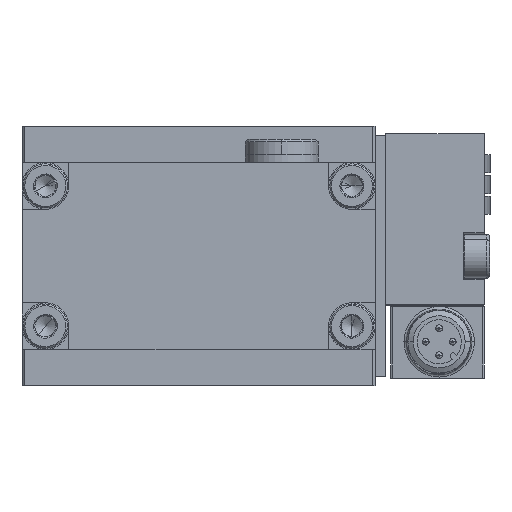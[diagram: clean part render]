
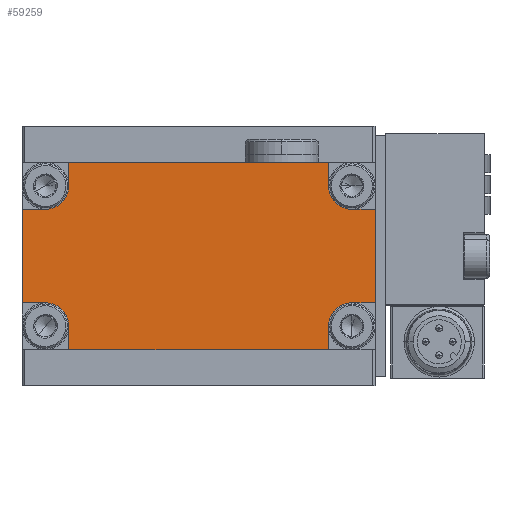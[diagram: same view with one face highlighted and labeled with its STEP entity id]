
A CAD part, front view. The second image highlights one B-rep face of the part: STEP entity #59259.
In plain terms, the highlighted planar face has unit normal (0, -1, 0).
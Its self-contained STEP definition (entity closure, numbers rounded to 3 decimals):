
#1172 = ORIENTED_EDGE ( 'NONE', *, *, #4289, .F. ) ;
#1534 = CARTESIAN_POINT ( 'NONE',  ( 34., -174.55, -9. ) ) ;
#2789 = LINE ( 'NONE', #60141, #53951 ) ;
#2869 = DIRECTION ( 'NONE',  ( -1., 0., 0. ) ) ;
#3066 = CARTESIAN_POINT ( 'NONE',  ( -34., -174.55, -9. ) ) ;
#3587 = CARTESIAN_POINT ( 'NONE',  ( -25., -174.55, -13.5 ) ) ;
#3918 = CIRCLE ( 'NONE', #41057, 4.5 ) ;
#4048 = CIRCLE ( 'NONE', #34590, 4.5 ) ;
#4289 = EDGE_CURVE ( 'NONE', #37727, #60537, #6051, .T. ) ;
#4492 = ORIENTED_EDGE ( 'NONE', *, *, #21920, .F. ) ;
#4717 = CARTESIAN_POINT ( 'NONE',  ( -25., -174.55, -13.5 ) ) ;
#4745 = LINE ( 'NONE', #3587, #55845 ) ;
#5276 = CARTESIAN_POINT ( 'NONE',  ( -29.5, -174.55, 13.5 ) ) ;
#5750 = CARTESIAN_POINT ( 'NONE',  ( -29.5, -174.55, 9. ) ) ;
#6051 = LINE ( 'NONE', #16690, #30817 ) ;
#6296 = LINE ( 'NONE', #11252, #31071 ) ;
#6354 = DIRECTION ( 'NONE',  ( 1., 0., 0. ) ) ;
#6829 = CARTESIAN_POINT ( 'NONE',  ( -29.5, -174.55, 9. ) ) ;
#7683 = VERTEX_POINT ( 'NONE', #39894 ) ;
#7700 = LINE ( 'NONE', #30034, #60387 ) ;
#8241 = VECTOR ( 'NONE', #41478, 1000. ) ;
#8709 = ORIENTED_EDGE ( 'NONE', *, *, #52588, .F. ) ;
#8832 = VERTEX_POINT ( 'NONE', #54946 ) ;
#8978 = AXIS2_PLACEMENT_3D ( 'NONE', #62211, #32532, #2869 ) ;
#9209 = ORIENTED_EDGE ( 'NONE', *, *, #17158, .T. ) ;
#9787 = CARTESIAN_POINT ( 'NONE',  ( 29.5, -174.55, -13.5 ) ) ;
#10219 = DIRECTION ( 'NONE',  ( -1., 0., 0. ) ) ;
#11252 = CARTESIAN_POINT ( 'NONE',  ( -29.5, -174.55, -9. ) ) ;
#11422 = VECTOR ( 'NONE', #41755, 1000. ) ;
#12673 = EDGE_CURVE ( 'NONE', #41107, #49428, #4745, .T. ) ;
#13685 = EDGE_CURVE ( 'NONE', #41107, #58607, #22002, .T. ) ;
#14766 = DIRECTION ( 'NONE',  ( -1., 0., 0. ) ) ;
#15255 = ORIENTED_EDGE ( 'NONE', *, *, #31916, .F. ) ;
#15918 = AXIS2_PLACEMENT_3D ( 'NONE', #46546, #16882, #51522 ) ;
#16690 = CARTESIAN_POINT ( 'NONE',  ( 29.5, -174.55, -9. ) ) ;
#16796 = ORIENTED_EDGE ( 'NONE', *, *, #53970, .F. ) ;
#16882 = DIRECTION ( 'NONE',  ( 0., -1., 0. ) ) ;
#17081 = CARTESIAN_POINT ( 'NONE',  ( -25., -174.55, -18. ) ) ;
#17158 = EDGE_CURVE ( 'NONE', #28695, #43926, #45703, .T. ) ;
#18326 = LINE ( 'NONE', #6829, #8241 ) ;
#19984 = CARTESIAN_POINT ( 'NONE',  ( -25., -174.55, 13.5 ) ) ;
#20385 = ORIENTED_EDGE ( 'NONE', *, *, #46421, .F. ) ;
#20947 = DIRECTION ( 'NONE',  ( 1., 0., 0. ) ) ;
#21066 = CARTESIAN_POINT ( 'NONE',  ( -34., -174.55, -18. ) ) ;
#21489 = VERTEX_POINT ( 'NONE', #39591 ) ;
#21703 = EDGE_CURVE ( 'NONE', #7683, #60160, #18326, .T. ) ;
#21806 = VERTEX_POINT ( 'NONE', #57040 ) ;
#21920 = EDGE_CURVE ( 'NONE', #28695, #21489, #45426, .T. ) ;
#22002 = LINE ( 'NONE', #21066, #46788 ) ;
#22154 = VECTOR ( 'NONE', #49236, 1000. ) ;
#24170 = ORIENTED_EDGE ( 'NONE', *, *, #12673, .F. ) ;
#24342 = LINE ( 'NONE', #45439, #60704 ) ;
#25242 = CARTESIAN_POINT ( 'NONE',  ( -29.5, -174.55, -13.5 ) ) ;
#27351 = EDGE_LOOP ( 'NONE', ( #38069, #20385, #63437, #55597, #24170, #54012, #15255, #27472, #1172, #62374, #38633, #16796, #4492, #9209, #8709, #52617 ) ) ;
#27402 = VERTEX_POINT ( 'NONE', #41954 ) ;
#27472 = ORIENTED_EDGE ( 'NONE', *, *, #54528, .F. ) ;
#28695 = VERTEX_POINT ( 'NONE', #30090 ) ;
#29393 = CIRCLE ( 'NONE', #8978, 4.5 ) ;
#30034 = CARTESIAN_POINT ( 'NONE',  ( 25., -174.55, -13.5 ) ) ;
#30090 = CARTESIAN_POINT ( 'NONE',  ( 25., -174.55, 18. ) ) ;
#30210 = DIRECTION ( 'NONE',  ( -1., 0., 0. ) ) ;
#30817 = VECTOR ( 'NONE', #31624, 1000. ) ;
#30962 = VECTOR ( 'NONE', #46702, 1000. ) ;
#31071 = VECTOR ( 'NONE', #50900, 1000. ) ;
#31595 = PLANE ( 'NONE',  #15918 ) ;
#31624 = DIRECTION ( 'NONE',  ( -1., 0., 0. ) ) ;
#31916 = EDGE_CURVE ( 'NONE', #36476, #58607, #7700, .T. ) ;
#32532 = DIRECTION ( 'NONE',  ( 0., -1., 0. ) ) ;
#32748 = CARTESIAN_POINT ( 'NONE',  ( -25., -174.55, 18. ) ) ;
#33391 = LINE ( 'NONE', #19984, #46574 ) ;
#33821 = CARTESIAN_POINT ( 'NONE',  ( 29.5, -174.55, -9. ) ) ;
#34508 = VERTEX_POINT ( 'NONE', #3066 ) ;
#34590 = AXIS2_PLACEMENT_3D ( 'NONE', #25242, #59854, #30210 ) ;
#36476 = VERTEX_POINT ( 'NONE', #60209 ) ;
#37727 = VERTEX_POINT ( 'NONE', #1534 ) ;
#38069 = ORIENTED_EDGE ( 'NONE', *, *, #21703, .F. ) ;
#38633 = ORIENTED_EDGE ( 'NONE', *, *, #61270, .F. ) ;
#39591 = CARTESIAN_POINT ( 'NONE',  ( 25., -174.55, 13.5 ) ) ;
#39894 = CARTESIAN_POINT ( 'NONE',  ( -34., -174.55, 9. ) ) ;
#39928 = DIRECTION ( 'NONE',  ( 0., -1., 0. ) ) ;
#40467 = DIRECTION ( 'NONE',  ( 0., 0., -1. ) ) ;
#41057 = AXIS2_PLACEMENT_3D ( 'NONE', #5276, #39928, #10219 ) ;
#41107 = VERTEX_POINT ( 'NONE', #17081 ) ;
#41478 = DIRECTION ( 'NONE',  ( 1., 0., 0. ) ) ;
#41755 = DIRECTION ( 'NONE',  ( 0., 0., 1. ) ) ;
#41758 = CARTESIAN_POINT ( 'NONE',  ( 34., -174.55, 18. ) ) ;
#41954 = CARTESIAN_POINT ( 'NONE',  ( 34., -174.55, 9. ) ) ;
#43630 = EDGE_CURVE ( 'NONE', #49428, #21806, #4048, .T. ) ;
#43926 = VERTEX_POINT ( 'NONE', #32748 ) ;
#44294 = EDGE_CURVE ( 'NONE', #21806, #34508, #6296, .T. ) ;
#44457 = DIRECTION ( 'NONE',  ( 0., -1., 0. ) ) ;
#44502 = CARTESIAN_POINT ( 'NONE',  ( 25., -174.55, 13.5 ) ) ;
#44559 = DIRECTION ( 'NONE',  ( 0., 0., -1. ) ) ;
#44762 = CARTESIAN_POINT ( 'NONE',  ( 25., -174.55, -18. ) ) ;
#45426 = LINE ( 'NONE', #44502, #22154 ) ;
#45439 = CARTESIAN_POINT ( 'NONE',  ( 29.5, -174.55, 9. ) ) ;
#45703 = LINE ( 'NONE', #41758, #30962 ) ;
#46345 = AXIS2_PLACEMENT_3D ( 'NONE', #9787, #44457, #14766 ) ;
#46421 = EDGE_CURVE ( 'NONE', #34508, #7683, #64148, .T. ) ;
#46546 = CARTESIAN_POINT ( 'NONE',  ( -34., -174.55, 18. ) ) ;
#46574 = VECTOR ( 'NONE', #49644, 1000. ) ;
#46702 = DIRECTION ( 'NONE',  ( -1., 0., 0. ) ) ;
#46788 = VECTOR ( 'NONE', #6354, 1000. ) ;
#49236 = DIRECTION ( 'NONE',  ( 0., 0., -1. ) ) ;
#49348 = FACE_OUTER_BOUND ( 'NONE', #27351, .T. ) ;
#49428 = VERTEX_POINT ( 'NONE', #4717 ) ;
#49644 = DIRECTION ( 'NONE',  ( 0., 0., 1. ) ) ;
#49786 = CARTESIAN_POINT ( 'NONE',  ( 29.5, -174.55, 9. ) ) ;
#50900 = DIRECTION ( 'NONE',  ( -1., 0., 0. ) ) ;
#51522 = DIRECTION ( 'NONE',  ( -1., 0., 0. ) ) ;
#52588 = EDGE_CURVE ( 'NONE', #8832, #43926, #33391, .T. ) ;
#52617 = ORIENTED_EDGE ( 'NONE', *, *, #56102, .F. ) ;
#53180 = DIRECTION ( 'NONE',  ( 0., 0., 1. ) ) ;
#53951 = VECTOR ( 'NONE', #40467, 1000. ) ;
#53970 = EDGE_CURVE ( 'NONE', #21489, #59266, #29393, .T. ) ;
#54012 = ORIENTED_EDGE ( 'NONE', *, *, #13685, .T. ) ;
#54528 = EDGE_CURVE ( 'NONE', #60537, #36476, #64184, .T. ) ;
#54946 = CARTESIAN_POINT ( 'NONE',  ( -25., -174.55, 13.5 ) ) ;
#55597 = ORIENTED_EDGE ( 'NONE', *, *, #43630, .F. ) ;
#55845 = VECTOR ( 'NONE', #53180, 1000. ) ;
#56102 = EDGE_CURVE ( 'NONE', #60160, #8832, #3918, .T. ) ;
#56445 = CARTESIAN_POINT ( 'NONE',  ( -34., -174.55, -18. ) ) ;
#57040 = CARTESIAN_POINT ( 'NONE',  ( -29.5, -174.55, -9. ) ) ;
#58607 = VERTEX_POINT ( 'NONE', #44762 ) ;
#59259 = ADVANCED_FACE ( 'NONE', ( #49348 ), #31595, .T. ) ;
#59266 = VERTEX_POINT ( 'NONE', #49786 ) ;
#59711 = EDGE_CURVE ( 'NONE', #27402, #37727, #2789, .T. ) ;
#59854 = DIRECTION ( 'NONE',  ( 0., -1., 0. ) ) ;
#60141 = CARTESIAN_POINT ( 'NONE',  ( 34., -174.55, 18. ) ) ;
#60160 = VERTEX_POINT ( 'NONE', #5750 ) ;
#60209 = CARTESIAN_POINT ( 'NONE',  ( 25., -174.55, -13.5 ) ) ;
#60387 = VECTOR ( 'NONE', #44559, 1000. ) ;
#60537 = VERTEX_POINT ( 'NONE', #33821 ) ;
#60704 = VECTOR ( 'NONE', #20947, 1000. ) ;
#61270 = EDGE_CURVE ( 'NONE', #59266, #27402, #24342, .T. ) ;
#62211 = CARTESIAN_POINT ( 'NONE',  ( 29.5, -174.55, 13.5 ) ) ;
#62374 = ORIENTED_EDGE ( 'NONE', *, *, #59711, .F. ) ;
#63437 = ORIENTED_EDGE ( 'NONE', *, *, #44294, .F. ) ;
#64148 = LINE ( 'NONE', #56445, #11422 ) ;
#64184 = CIRCLE ( 'NONE', #46345, 4.5 ) ;
